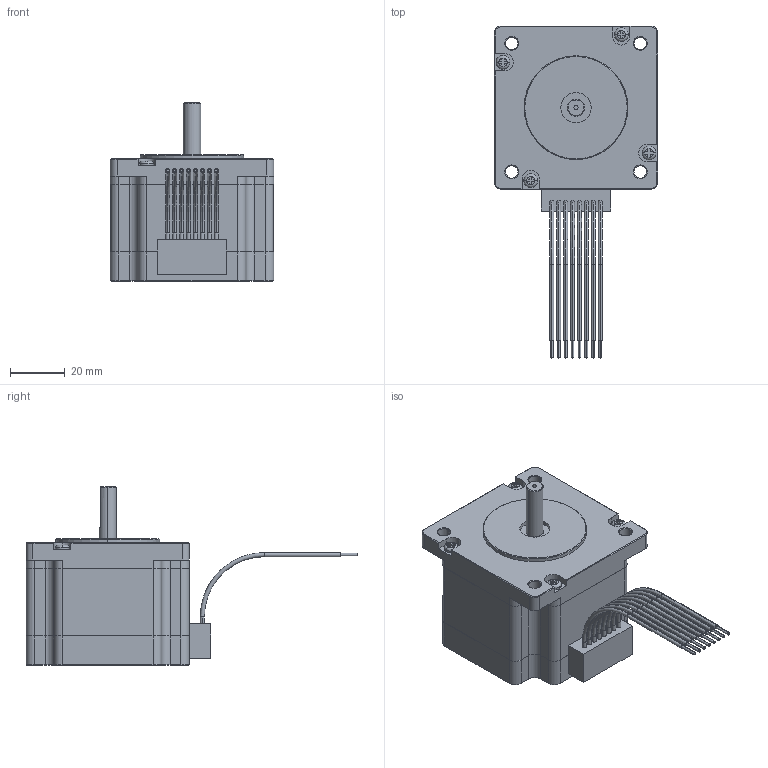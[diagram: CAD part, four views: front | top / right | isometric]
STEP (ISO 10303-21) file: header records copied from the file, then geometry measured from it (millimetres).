
FILE_DESCRIPTION (( 'STEP AP214' ), '1' );
FILE_NAME ('24Y104S-LW8.STEP', '2010-06-11T15:53:15', ( 'Tim Raines' ), ( 'Anaheim Automation' ), 'SwSTEP 2.0', 'SolidWorks 2010', '' );
FILE_SCHEMA (( 'AUTOMOTIVE_DESIGN' ));
Length unit declared in the file: inch
Products named in the file (1): 24Y104S-LW8
Bounding box: 59.94 x 121.84 x 65.58 mm (x, y, z)
Volume: 149939.2 mm3; surface area: 22221.2 mm2
Topology: 1 solids, 1 shells, 385 faces, 966 edges, 608 vertices
Faces by surface type: plane 175, cylinder 131, cone 55, torus 24
Entity records: 16616 total; most frequent: CARTESIAN_POINT 2206, DIRECTION 2039, ORIENTED_EDGE 1916, EDGE_CURVE 958, AXIS2_PLACEMENT_3D 753, VERTEX_POINT 608, VECTOR 533, LINE 533
